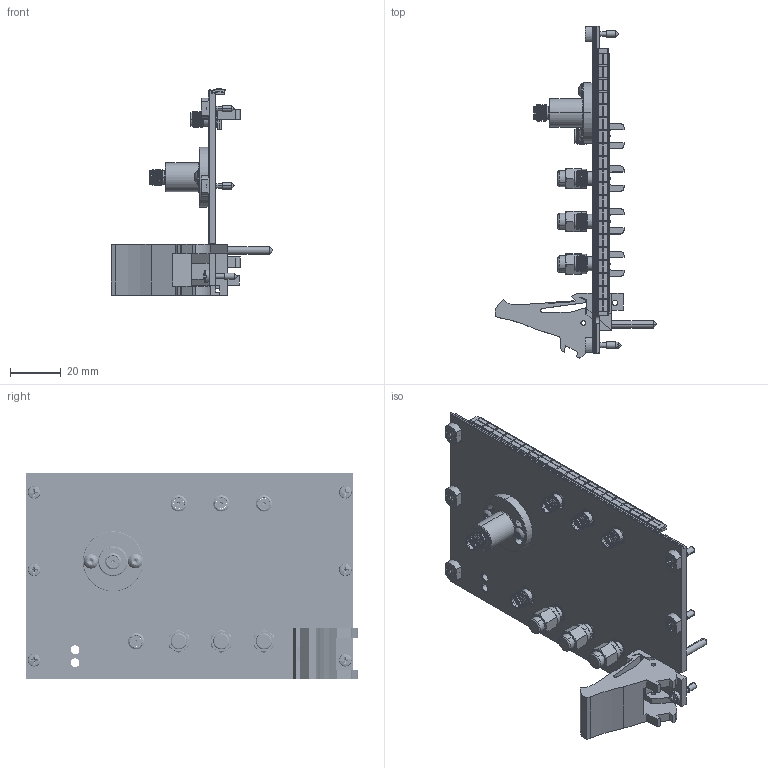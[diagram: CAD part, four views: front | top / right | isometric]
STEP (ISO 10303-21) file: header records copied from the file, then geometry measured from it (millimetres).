
FILE_DESCRIPTION((''),'2;1');
FILE_NAME('CU_PXIE-5605','2011-08-16T',('jjorden'),(''),'PRO/ENGINEER BY PARAMETRIC TECHNOLOGY CORPORATION, 2010230','PRO/ENGINEER BY PARAMETRIC TECHNOLOGY CORPORATION, 2010230','');
FILE_SCHEMA(('CONFIG_CONTROL_DESIGN'));
Length unit declared in the file: millimetre
Products named in the file (1): CU_PXIE-5605
Bounding box: 63.53 x 130.5 x 81.25 mm (x, y, z)
Volume: 19800.5 mm3; surface area: 62342.4 mm2
Topology: 22 solids, 45 shells, 2687 faces, 7721 edges, 5139 vertices
Faces by surface type: plane 1223, cylinder 908, cone 286, torus 110, bspline 105, extrusion 31, sphere 24
Entity records: 116637 total; most frequent: CARTESIAN_POINT 47551, ORIENTED_EDGE 15299, DIRECTION 13230, EDGE_CURVE 7678, VERTEX_POINT 5139, AXIS2_PLACEMENT_3D 4624, VECTOR 3982, LINE 3951
